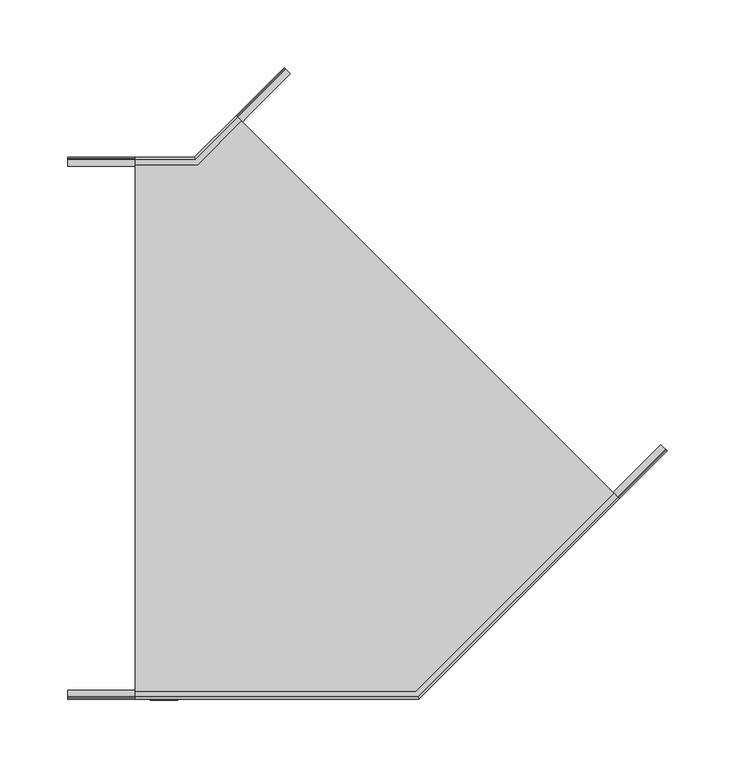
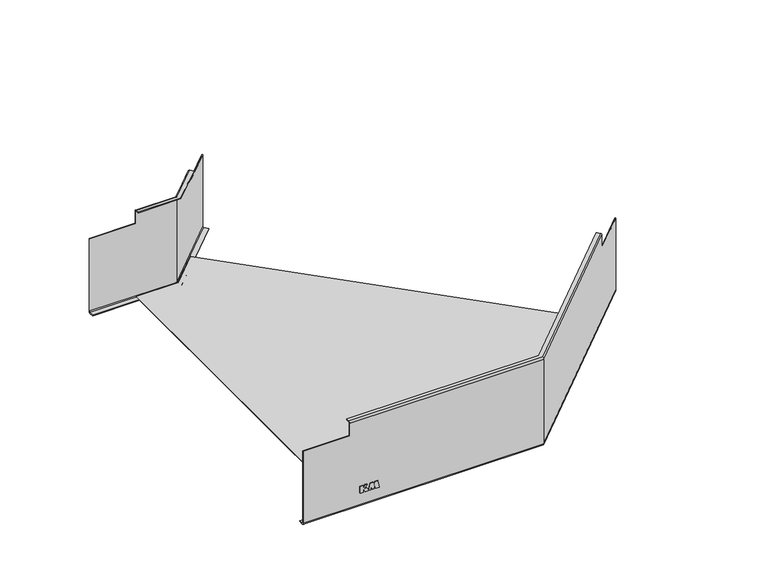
"""IFC4 building model written with IfcOpenShell, lengths in millimetres: cable carrier fitting geometry, КМ Профиль Угол горизонтальный : Угол горизонтальный."""

import ifcopenshell
import ifcopenshell.guid

model = None  # the IFC model being written
_history = None  # IfcOwnerHistory: only IFC2X3 demands one
_inside = {}  # id of a spatial element -> (the spatial element, [elements in it])
_under = {}  # id of a project, library or spatial element -> (it, [spatial elements below it])
_declared = {}  # id of a project -> (the project, [libraries it declares])
_typed = {}  # id of a type object -> (the type object, [elements of that type])
_made_of = {}  # id of a material, layer set ... -> (it, [elements and type objects made of it])


def new_model(schema):
    """Start an empty IFC model of exactly this schema.

    Asked for "IFC4X3", IfcOpenShell would pick the latest addendum, in which some entities
    have other attributes; the version numbers below select the first issue.
    IFC2X3 requires an IfcOwnerHistory on every rooted entity: one is made here for all.
    """
    global model, _history
    if schema == "IFC4X3":
        model = ifcopenshell.file(schema_version=(4, 3, 0, 0))
    else:
        model = ifcopenshell.file(schema=schema)
    _inside.clear()
    _under.clear()
    _declared.clear()
    _typed.clear()
    _made_of.clear()
    _history = None
    if model.schema == "IFC2X3":
        org = make("IfcOrganization", Name="unknown")
        user = make(
            "IfcPersonAndOrganization",
            ThePerson=make("IfcPerson", FamilyName="unknown"),
            TheOrganization=org,
        )
        app = make(
            "IfcApplication",
            ApplicationDeveloper=org,
            Version="unknown",
            ApplicationFullName="unknown",
            ApplicationIdentifier="unknown",
        )
        _history = make(
            "IfcOwnerHistory",
            OwningUser=user,
            OwningApplication=app,
            ChangeAction="ADDED",
            CreationDate=0,
        )
    return model


def make(cls, **values):
    """One entity of the class cls with the attributes given. An attribute that is None is left unset."""
    return model.create_entity(
        cls, **{name: value for name, value in values.items() if value is not None}
    )


def rooted(cls, **values):
    """An entity with a GlobalId (a new one), such as an element, a storey or a relation."""
    return make(cls, GlobalId=ifcopenshell.guid.new(), OwnerHistory=_history, **values)


def si_unit(unit_type, name, prefix=None):
    """IfcSIUnit, for example si_unit("LENGTHUNIT", "METRE", prefix="MILLI")."""
    return make("IfcSIUnit", UnitType=unit_type, Prefix=prefix, Name=name)


def assignment(units):
    """IfcUnitAssignment: the units of a project."""
    return None if units is None else make("IfcUnitAssignment", Units=units)


def point(xyz):
    """IfcCartesianPoint."""
    return None if xyz is None else make("IfcCartesianPoint", Coordinates=xyz)


def direction(xyz):
    """IfcDirection."""
    return None if xyz is None else make("IfcDirection", DirectionRatios=xyz)


def frame(location, z_axis=None, x_axis=None):
    """IfcAxis2Placement3D, a coordinate frame: its origin and axes. An axis left out is left unset."""
    return make(
        "IfcAxis2Placement3D",
        Location=point(location),
        Axis=direction(z_axis),
        RefDirection=direction(x_axis),
    )


def origin():
    """The frame at (0, 0, 0) with its axes left unset."""
    return frame((0.0, 0.0, 0.0))


def place(relative_to, where):
    """IfcLocalPlacement: puts the frame where relative to a parent placement (None: the world)."""
    return make(
        "IfcLocalPlacement", PlacementRelTo=relative_to, RelativePlacement=where
    )


def context(
    kind, dimensions, precision=None, world=None, true_north=None, identifier=None
):
    """IfcGeometricRepresentationContext, for example the 3D "Model" context."""
    return make(
        "IfcGeometricRepresentationContext",
        ContextIdentifier=identifier,
        ContextType=kind,
        CoordinateSpaceDimension=dimensions,
        Precision=precision,
        WorldCoordinateSystem=world,
        TrueNorth=true_north,
    )


def project(units=None, contexts=None):
    """IfcProject with its units and contexts."""
    return rooted(
        "IfcProject",
        Name="project",
        RepresentationContexts=contexts,
        UnitsInContext=assignment(units),
    )


def spatial(cls, under=None, at=None, **own):
    """A site, building, storey or space (cls), placed at a placement, below another one or the project."""
    s = rooted(cls, ObjectPlacement=at, **own)
    if under is not None:
        _under.setdefault(under.id(), (under, []))[1].append(s)
    return s


def polyline(points):
    """IfcPolyline through the points."""
    return make("IfcPolyline", Points=[point(p) for p in points])


def circle_curve(where, radius):
    """IfcCircle in the frame where."""
    return make("IfcCircle", Position=where, Radius=radius)


def ellipse_curve(where, semi_axis1, semi_axis2):
    """IfcEllipse in the frame where."""
    return make(
        "IfcEllipse", Position=where, SemiAxis1=semi_axis1, SemiAxis2=semi_axis2
    )


def outline(outer, holes=None, kind="AREA"):
    """IfcArbitraryClosedProfileDef: a profile drawn as a closed curve; with holes, ...WithVoids."""
    if holes is None:
        return make("IfcArbitraryClosedProfileDef", ProfileType=kind, OuterCurve=outer)
    return make(
        "IfcArbitraryProfileDefWithVoids",
        ProfileType=kind,
        OuterCurve=outer,
        InnerCurves=holes,
    )


def extrude(swept, where, along, depth):
    """IfcExtrudedAreaSolid: the profile swept, set in the frame where, extruded along a direction by depth."""
    return make(
        "IfcExtrudedAreaSolid",
        SweptArea=swept,
        Position=where,
        ExtrudedDirection=direction(along),
        Depth=depth,
    )


def shape(context_of_items, identifier, shape_type, items):
    """IfcShapeRepresentation: the items that make up one representation, for example the "Body"."""
    return make(
        "IfcShapeRepresentation",
        ContextOfItems=context_of_items,
        RepresentationIdentifier=identifier,
        RepresentationType=shape_type,
        Items=items,
    )


def source(mapping_origin, context_of_items, identifier, shape_type, items):
    """IfcRepresentationMap: a shape defined once, which mapped items show again and again."""
    return make(
        "IfcRepresentationMap",
        MappingOrigin=mapping_origin,
        MappedRepresentation=shape(context_of_items, identifier, shape_type, items),
    )


def transform(
    local_origin,
    x_axis=None,
    y_axis=None,
    z_axis=None,
    scale=None,
    scale2=None,
    scale3=None,
    uniform=True,
):
    """IfcCartesianTransformationOperator3D, or its non-uniform kind. x_axis, y_axis, z_axis: its Axis1, 2, 3."""
    if uniform:
        return make(
            "IfcCartesianTransformationOperator3D",
            Axis1=direction(x_axis),
            Axis2=direction(y_axis),
            LocalOrigin=point(local_origin),
            Scale=scale,
            Axis3=direction(z_axis),
        )
    return make(
        "IfcCartesianTransformationOperator3DnonUniform",
        Axis1=direction(x_axis),
        Axis2=direction(y_axis),
        LocalOrigin=point(local_origin),
        Scale=scale,
        Axis3=direction(z_axis),
        Scale2=scale2,
        Scale3=scale3,
    )


def mapped(mapping_source, mapping_target):
    """IfcMappedItem: shows the shape of a source again, moved by a transform."""
    return make(
        "IfcMappedItem", MappingSource=mapping_source, MappingTarget=mapping_target
    )


def made_of(thing, what):
    """Note that an element or type object is made of a material, layer set ...; save() writes the relation."""
    if what is not None:
        _made_of.setdefault(what.id(), (what, []))[1].append(thing)
    return thing


def element(
    cls,
    number,
    at=None,
    inside=None,
    cuts=None,
    type_object=None,
    material=None,
    context=None,
    identifier="Body",
    shape_type=None,
    held_by="IfcProductDefinitionShape",
    body=None,
    shapes=None,
    **own,
):
    """One element of the class cls, such as IfcWall. Its Tag is "e" and its number.

    at: its placement. inside: the storey or other place that contains it. cuts: it is an
    opening in that element (IfcRelVoidsElement). A single representation is given by context,
    identifier, shape_type and body (its items); several are given by shapes. held_by: the class
    of the entity that holds the representations. save() writes the other relations.
    """
    e = rooted(cls, Tag="e%d" % number, ObjectPlacement=at, **own)
    if body is not None:
        shapes = [shape(context, identifier, shape_type, body)]
    if shapes is not None:
        e.Representation = make(held_by, Representations=shapes)
    if inside is not None:
        _inside.setdefault(inside.id(), (inside, []))[1].append(e)
    if cuts is not None:
        rooted(
            "IfcRelVoidsElement", RelatingBuildingElement=cuts, RelatedOpeningElement=e
        )
    if type_object is not None:
        _typed.setdefault(type_object.id(), (type_object, []))[1].append(e)
    return made_of(e, material)


def aggregate(whole, parts):
    """IfcRelAggregates: a whole, such as a stair, and the parts it consists of."""
    return rooted("IfcRelAggregates", RelatingObject=whole, RelatedObjects=parts)


def save(model, path):
    """Write the relations noted so far, then the file.

    IfcRelAggregates (storeys below a building ...), IfcRelContainedInSpatialStructure (elements
    in a storey), IfcRelDefinesByType, IfcRelAssociatesMaterial and IfcRelDeclares: one each for
    every whole, place, type object, material and project.
    """
    for whole, parts in _under.values():
        aggregate(whole, parts)
    for where, things in _inside.values():
        rooted(
            "IfcRelContainedInSpatialStructure",
            RelatedElements=things,
            RelatingStructure=where,
        )
    for kind, things in _typed.values():
        rooted("IfcRelDefinesByType", RelatedObjects=things, RelatingType=kind)
    for what, things in _made_of.values():
        rooted("IfcRelAssociatesMaterial", RelatedObjects=things, RelatingMaterial=what)
    for by, libraries in _declared.values():
        rooted("IfcRelDeclares", RelatingContext=by, RelatedDefinitions=libraries)
    model.write(path)


def plane_surface(at):
    """IfcPlane: the flat surface through the origin of the frame at, square to its z axis."""
    return make("IfcPlane", Position=at)


def cylinder_surface(at, radius):
    """IfcCylindricalSurface: all points at the distance radius from the z axis of the frame at."""
    return make("IfcCylindricalSurface", Position=at, Radius=radius)


def revolved_surface(curve, axis_point, axis_direction):
    """IfcSurfaceOfRevolution: the curve turned about the line through axis_point along axis_direction."""
    return make(
        "IfcSurfaceOfRevolution",
        SweptCurve=make("IfcArbitraryOpenProfileDef", ProfileType="CURVE", Curve=curve),
        AxisPosition=make("IfcAxis1Placement", Location=point(axis_point), Axis=direction(axis_direction)),
    )


def advanced_brep(points, edges, surfaces, faces):
    """IfcAdvancedBrep: a solid bounded by faces that lie on surfaces and meet in shared edges.

    An edge is (start, end): straight between two places in points (the first is 0);
    or (start, end, curve); or (start, end, curve, False) where it runs against its curve.
    A face is (place in surfaces, loops), or (place, loops, False) where it looks against
    its surface's normal. A loop lists edges by number (the first is 1), with a minus sign
    where the edge is run from its end to its start. The first loop is the outer one.
    """
    corners = [point(p) for p in points]
    vertices = [make("IfcVertexPoint", VertexGeometry=c) for c in corners]
    made = []
    for start, end, *more in edges:
        made.append(
            make(
                "IfcEdgeCurve",
                EdgeStart=vertices[start],
                EdgeEnd=vertices[end],
                EdgeGeometry=more[0] if more else make("IfcPolyline", Points=[corners[start], corners[end]]),
                SameSense=more[1] if len(more) > 1 else True,
            )
        )
    hull = []
    for where, loops, *sense in faces:
        bounds = []
        for j, loop in enumerate(loops):
            ring = [make("IfcOrientedEdge", EdgeElement=made[abs(k) - 1], Orientation=k > 0) for k in loop]
            bounds.append(
                make(
                    "IfcFaceOuterBound" if j == 0 else "IfcFaceBound",
                    Bound=make("IfcEdgeLoop", EdgeList=ring),
                    Orientation=True,
                )
            )
        hull.append(make("IfcAdvancedFace", Bounds=bounds, FaceSurface=surfaces[where], SameSense=sense[0] if sense else True))
    return make("IfcAdvancedBrep", Outer=make("IfcClosedShell", CfsFaces=hull))


def cable_carrier_fitting_b00d838e(model_context):
    return source(origin(), model_context, "Body", "SolidModel", [
        extrude(outline(polyline([(-26.986157, -115.6393683), (-34.737421, -115.6393683), (-34.737421, -112.0635414), (-31.5720802, -112.0635414), (-34.737421, -110.3593369), (-34.737421, -106.4609255), (-31.194034, -108.3282346), (-30.5086619, -110.5699857), (-26.986157, -108.1035012), (-26.986157, -110.2294659), (-30.564509, -112.1321094), (-26.986157, -112.1321094), (-26.986157, -115.6393683)])), frame((0.0, -200.8, 0.0), z_axis=(0.0, 1.0, 0.0), x_axis=(0.0, 0.0, 1.0)), (0.0, 0.0, 1.0), 0.8),
        extrude(outline(polyline([(-34.737421, -104.3967661), (-30.0696135, -104.0130914), (-34.7434681, -102.6050726), (-34.7434681, -101.1305619), (-30.0541919, -99.6504934), (-34.7429915, -99.1730007), (-34.7429915, -95.2705601), (-26.9623682, -96.4620576), (-26.9623682, -99.6560124), (-30.0390232, -100.6773199), (-26.9647569, -101.4438206), (-26.9647569, -104.4745491), (-34.737421, -106.2948297), (-34.737421, -104.3967661)])), frame((0.0, -200.8, 0.0), z_axis=(0.0, 1.0, 0.0), x_axis=(0.0, 0.0, 1.0)), (0.0, 0.0, 1.0), 0.8),
        advanced_brep(
        [(-176.4004902, -199.2, -48.2), (-176.4004902, -198.2, -49.2), (-176.4004902, -193.5, -49.2), (-176.4004902, -193.5, -50.0), (-176.4004902, -198.2, -50.0), (-176.4004902, -200.0, -48.2), (-176.4004902, -200.0, 34.0), (-176.4004902, -199.2, 34.0), (82.5113416, -199.2, 48.2), (82.5113416, -199.2, -48.2), (-126.4004902, -199.2, 34.0), (-126.4004902, -199.2, 48.2), (82.0971281, -198.2, -49.2), (264.8825469, -15.4145812, -49.2), (261.559145, -12.0911793, -49.2), (80.1503243, -193.5, -49.2), (80.1503243, -193.5, -50.0), (261.559145, -12.0911793, -50.0), (264.8825469, -15.4145812, -50.0), (82.0971281, -198.2, -50.0), (82.8427125, -200.0, -48.2), (82.8427125, -200.0, 48.2), (-126.4004902, -200.0, 48.2), (-126.4004902, -200.0, 34.0), (82.0971281, -198.2, 50.0), (-126.4004902, -198.2, 50.0), (229.5272078, -50.7699203, 50.0), (226.9109127, -48.1536252, 50.0), (80.5645379, -194.5, 50.0), (-126.4004902, -194.5, 50.0), (80.5645379, -194.5, 49.2), (-126.4004902, -194.5, 49.2), (226.9109127, -48.1536252, 49.2), (229.5272078, -50.7699203, 49.2), (82.0971281, -198.2, 49.2), (-126.4004902, -198.2, 49.2), (265.5896536, -16.121688, -48.2), (265.5896536, -16.121688, 34.0), (266.1553391, -16.6873734, 34.0), (266.1553391, -16.6873734, -48.2), (230.2343146, -51.477027, 48.2), (230.2343146, -51.477027, 34.0), (230.8, -52.0427125, 34.0), (230.8, -52.0427125, 48.2)],
        [
            (0, 1, circle_curve(frame((-176.4004902, -198.2, -48.2), z_axis=(1.0, 0.0, 0.0), x_axis=(0.0, 1.0, 0.0)), 1.0)),
            (1, 2),
            (2, 3),
            (3, 4),
            (4, 5, circle_curve(frame((-176.4004902, -198.2, -48.2), z_axis=(-1.0, 0.0, 0.0), x_axis=(0.0, 1.0, 0.0)), 1.8)),
            (5, 6),
            (6, 7),
            (7, 0),
            (8, 9),
            (9, 0),
            (7, 10),
            (10, 11),
            (11, 8),
            (9, 12, ellipse_curve(frame((82.0971281, -198.2, -48.2), z_axis=(0.9238795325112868, 0.3826834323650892, 0.0), x_axis=(0.3826834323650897, -0.9238795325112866, 0.0)), 1.0823922, 1.0)),
            (12, 1),
            (12, 13),
            (13, 14),
            (14, 15),
            (15, 2),
            (15, 16),
            (16, 3),
            (16, 17),
            (17, 18),
            (18, 19),
            (19, 4),
            (19, 20, ellipse_curve(frame((82.0971281, -198.2, -48.2), z_axis=(-0.9238795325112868, -0.3826834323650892, 0.0), x_axis=(-0.3826834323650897, 0.9238795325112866, 0.0)), 1.948306, 1.8)),
            (20, 5),
            (20, 21),
            (21, 22),
            (22, 23),
            (23, 6),
            (21, 24, ellipse_curve(frame((82.0971281, -198.2, 48.2), z_axis=(-0.9238795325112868, -0.3826834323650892, 0.0), x_axis=(-0.3826834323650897, 0.9238795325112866, 0.0)), 1.948306, 1.8)),
            (24, 25),
            (25, 22, circle_curve(frame((-126.4004902, -198.2, 48.2), z_axis=(1.0, 0.0, 0.0), x_axis=(0.0, 1.0, 0.0)), 1.8)),
            (24, 26),
            (26, 27),
            (27, 28),
            (28, 29),
            (29, 25),
            (28, 30),
            (30, 31),
            (31, 29),
            (30, 32),
            (32, 33),
            (33, 34),
            (34, 35),
            (35, 31),
            (34, 8, ellipse_curve(frame((82.0971281, -198.2, 48.2), z_axis=(0.9238795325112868, 0.3826834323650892, 0.0), x_axis=(0.3826834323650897, -0.9238795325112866, 0.0)), 1.0823922, 1.0)),
            (11, 35, circle_curve(frame((-126.4004902, -198.2, 48.2), z_axis=(-1.0, 0.0, 0.0), x_axis=(0.0, 1.0, 0.0)), 1.0)),
            (13, 36, circle_curve(frame((264.8825469, -15.4145812, -48.2), z_axis=(-0.7071067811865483, -0.7071067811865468, 0.0), x_axis=(-0.7071067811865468, 0.7071067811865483, 0.0)), 1.0)),
            (36, 37),
            (37, 38),
            (38, 39),
            (39, 18, circle_curve(frame((264.8825469, -15.4145812, -48.2), z_axis=(0.7071067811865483, 0.7071067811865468, 0.0), x_axis=(-0.7071067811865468, 0.7071067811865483, 0.0)), 1.8)),
            (17, 14),
            (8, 40),
            (40, 41),
            (41, 37),
            (36, 9),
            (39, 20),
            (38, 42),
            (42, 43),
            (43, 21),
            (43, 26, circle_curve(frame((229.5272078, -50.7699203, 48.2), z_axis=(-0.7071067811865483, -0.7071067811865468, 0.0), x_axis=(-0.7071067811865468, 0.7071067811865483, 0.0)), 1.8)),
            (27, 32),
            (33, 40, circle_curve(frame((229.5272078, -50.7699203, 48.2), z_axis=(0.7071067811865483, 0.7071067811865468, 0.0), x_axis=(-0.7071067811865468, 0.7071067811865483, 0.0)), 1.0)),
            (23, 10),
            (41, 42),
        ],
        [
            plane_surface(frame((-176.4004902, -200.0, 0.0), z_axis=(-1.0, 0.0, 0.0), x_axis=(0.0, 0.0, 1.0))),
            plane_surface(frame((-176.4004902, -199.2, 48.2), z_axis=(0.0, 1.0, 0.0), x_axis=(1.0, 0.0, 0.0))),
            revolved_surface(polyline([(82.51134166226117, -197.2, -48.2), (-176.4004902, -197.2, -48.2)]), (-176.4004902, -198.2, -48.2), (1.0, 0.0, 0.0)),
            plane_surface(frame((-176.4004902, -198.2, -49.2), z_axis=(0.0, 0.0, 1.0), x_axis=(1.0, 0.0, 0.0))),
            plane_surface(frame((-176.4004902, -193.5, -49.2), z_axis=(0.0, 1.0, 0.0), x_axis=(1.0, 0.0, 0.0))),
            plane_surface(frame((-176.4004902, -193.5, -50.0), z_axis=(0.0, 0.0, -1.0), x_axis=(1.0, 0.0, 0.0))),
            cylinder_surface(frame((-176.4004902, -198.2, -48.2), z_axis=(-1.0, 0.0, 0.0), x_axis=(0.0, 1.0, 0.0)), 1.8),
            plane_surface(frame((-176.4004902, -200.0, -48.2), z_axis=(0.0, -1.0, 0.0), x_axis=(1.0, 0.0, 0.0))),
            cylinder_surface(frame((-176.4004902, -198.2, 48.2), z_axis=(-1.0, 0.0, 0.0), x_axis=(0.0, 1.0, 0.0)), 1.8),
            plane_surface(frame((-176.4004902, -198.2, 50.0), z_axis=(0.0, 0.0, 1.0), x_axis=(1.0, 0.0, 0.0))),
            plane_surface(frame((-176.4004902, -194.5, 50.0), z_axis=(0.0, 1.0, 0.0), x_axis=(1.0, 0.0, 0.0))),
            plane_surface(frame((-176.4004902, -194.5, 49.2), z_axis=(0.0, 0.0, -1.0), x_axis=(1.0, 0.0, 0.0))),
            revolved_surface(polyline([(82.51134166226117, -197.2, 48.2), (-126.4004902, -197.2, 48.2)]), (-176.4004902, -198.2, 48.2), (1.0, 0.0, 0.0)),
            plane_surface(frame((266.1553391, -16.6873734, 0.0), z_axis=(0.7071067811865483, 0.7071067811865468, 0.0), x_axis=(0.0, 0.0, 1.0))),
            plane_surface(frame((82.5113416, -199.2, 48.2), z_axis=(-0.7071067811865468, 0.7071067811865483, 0.0), x_axis=(0.7071067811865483, 0.7071067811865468, 0.0))),
            revolved_surface(polyline([(264.17544011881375, -14.707474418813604, -48.2), (81.09712806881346, -197.78578646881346, -48.2)]), (81.5699203, -198.7272078, -48.2), (0.7071067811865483, 0.7071067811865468, 0.0)),
            plane_surface(frame((80.1503243, -193.5, -49.2), z_axis=(-0.7071067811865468, 0.7071067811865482, 0.0), x_axis=(0.7071067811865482, 0.7071067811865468, 0.0))),
            cylinder_surface(frame((81.5699203, -198.7272078, -48.2), z_axis=(-0.7071067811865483, -0.7071067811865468, 0.0), x_axis=(-0.7071067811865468, 0.7071067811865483, 0.0)), 1.8),
            plane_surface(frame((82.8427125, -200.0, -48.2), z_axis=(0.7071067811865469, -0.7071067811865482, 0.0), x_axis=(0.7071067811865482, 0.7071067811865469, 0.0))),
            cylinder_surface(frame((81.5699203, -198.7272078, 48.2), z_axis=(-0.7071067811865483, -0.7071067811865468, 0.0), x_axis=(-0.7071067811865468, 0.7071067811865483, 0.0)), 1.8),
            plane_surface(frame((80.5645379, -194.5, 50.0), z_axis=(-0.7071067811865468, 0.7071067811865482, 0.0), x_axis=(0.7071067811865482, 0.7071067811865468, 0.0))),
            revolved_surface(polyline([(228.82010106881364, -50.0628134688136, 48.2), (81.09712806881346, -197.78578646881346, 48.2)]), (81.5699203, -198.7272078, 48.2), (0.7071067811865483, 0.7071067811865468, 0.0)),
            plane_surface(frame((-176.4004902, -200.0, 34.0), z_axis=(0.0, 0.0, 1.0), x_axis=(-1.0, 0.0, 0.0))),
            plane_surface(frame((-126.4004902, -200.0, 50.0), z_axis=(-1.0, 0.0, 0.0), x_axis=(0.0, 0.0, -1.0))),
            plane_surface(frame((-52.0427125, 230.8, 50.0), z_axis=(0.7071067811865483, 0.7071067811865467, 0.0), x_axis=(0.0, 0.0, -1.0))),
        ],
        [
            (0, [[1, 2, 3, 4, 5, 6, 7, 8]]),
            (1, [[9, 10, -8, 11, 12, 13]]),
            (2, [[-1, -10, 14, 15]]),
            (3, [[-2, -15, 16, 17, 18, 19]]),
            (4, [[-3, -19, 20, 21]]),
            (5, [[-4, -21, 22, 23, 24, 25]]),
            (6, [[-5, -25, 26, 27]]),
            (7, [[-27, 28, 29, 30, 31, -6]]),
            (8, [[32, 33, 34, -29]]),
            (9, [[-33, 35, 36, 37, 38, 39]]),
            (10, [[40, 41, 42, -38]]),
            (11, [[-41, 43, 44, 45, 46, 47]]),
            (12, [[48, -13, 49, -46]]),
            (13, [[-17, 50, 51, 52, 53, 54, -23, 55]]),
            (14, [[-9, 56, 57, 58, -51, 59]]),
            (15, [[-14, -59, -50, -16]]),
            (16, [[-18, -55, -22, -20]]),
            (17, [[-24, -54, 60, -26]]),
            (18, [[-28, -60, -53, 61, 62, 63]]),
            (19, [[-32, -63, 64, -35]]),
            (20, [[-40, -37, 65, -43]]),
            (21, [[-48, -45, 66, -56]]),
            (22, [[67, -11, -7, -31]]),
            (22, [[68, -61, -52, -58]]),
            (23, [[-67, -30, -34, -39, -42, -47, -49, -12]]),
            (24, [[-68, -57, -66, -44, -65, -36, -64, -62]]),
        ],
    ),
        advanced_brep(
        [(-176.4004902, 193.5, -49.2), (-176.4004902, 198.2, -49.2), (-176.4004902, 199.2, -48.2), (-176.4004902, 199.2, 34.0), (-176.4004902, 200.0, 34.0), (-176.4004902, 200.0, -48.2), (-176.4004902, 198.2, -50.0), (-176.4004902, 193.5, -50.0), (-80.1503243, 193.5, -49.2), (-12.0911793, 261.559145, -49.2), (-15.4145812, 264.8825469, -49.2), (-82.0971281, 198.2, -49.2), (-82.5113416, 199.2, -48.2), (-82.5113416, 199.2, 48.2), (-126.4004902, 199.2, 48.2), (-126.4004902, 199.2, 34.0), (-82.0971281, 198.2, 49.2), (-126.4004902, 198.2, 49.2), (-50.7699203, 229.5272078, 49.2), (-48.1536252, 226.9109127, 49.2), (-80.5645379, 194.5, 49.2), (-126.4004902, 194.5, 49.2), (-80.5645379, 194.5, 50.0), (-126.4004902, 194.5, 50.0), (-48.1536252, 226.9109127, 50.0), (-50.7699203, 229.5272078, 50.0), (-82.0971281, 198.2, 50.0), (-126.4004902, 198.2, 50.0), (-82.8427125, 200.0, 48.2), (-126.4004902, 200.0, 48.2), (-82.8427125, 200.0, -48.2), (-126.4004902, 200.0, 34.0), (-82.0971281, 198.2, -50.0), (-15.4145812, 264.8825469, -50.0), (-12.0911793, 261.559145, -50.0), (-80.1503243, 193.5, -50.0), (-16.6873734, 266.1553391, -48.2), (-16.6873734, 266.1553391, 34.0), (-16.121688, 265.5896536, 34.0), (-16.121688, 265.5896536, -48.2), (-51.477027, 230.2343146, 34.0), (-51.477027, 230.2343146, 48.2), (-52.0427125, 230.8, 48.2), (-52.0427125, 230.8, 34.0)],
        [
            (0, 1),
            (1, 2, circle_curve(frame((-176.4004902, 198.2, -48.2), z_axis=(1.0, 0.0, 0.0), x_axis=(0.0, 1.0, 0.0)), 1.0)),
            (2, 3),
            (3, 4),
            (4, 5),
            (5, 6, circle_curve(frame((-176.4004902, 198.2, -48.2), z_axis=(-1.0, 0.0, 0.0), x_axis=(0.0, 1.0, 0.0)), 1.8)),
            (6, 7),
            (7, 0),
            (0, 8),
            (8, 9),
            (9, 10),
            (10, 11),
            (11, 1),
            (11, 12, ellipse_curve(frame((-82.0971281, 198.2, -48.2), z_axis=(0.9238795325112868, 0.3826834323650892, 0.0), x_axis=(0.3826834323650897, -0.9238795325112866, 0.0)), 1.0823922, 1.0)),
            (12, 2),
            (12, 13),
            (13, 14),
            (14, 15),
            (15, 3),
            (13, 16, ellipse_curve(frame((-82.0971281, 198.2, 48.2), z_axis=(0.9238795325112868, 0.3826834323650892, 0.0), x_axis=(0.3826834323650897, -0.9238795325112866, 0.0)), 1.0823922, 1.0)),
            (16, 17),
            (17, 14, circle_curve(frame((-126.4004902, 198.2, 48.2), z_axis=(-1.0, 0.0, 0.0), x_axis=(0.0, 1.0, 0.0)), 1.0)),
            (16, 18),
            (18, 19),
            (19, 20),
            (20, 21),
            (21, 17),
            (20, 22),
            (22, 23),
            (23, 21),
            (22, 24),
            (24, 25),
            (25, 26),
            (26, 27),
            (27, 23),
            (26, 28, ellipse_curve(frame((-82.0971281, 198.2, 48.2), z_axis=(-0.9238795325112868, -0.3826834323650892, 0.0), x_axis=(-0.3826834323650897, 0.9238795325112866, 0.0)), 1.948306, 1.8)),
            (28, 29),
            (29, 27, circle_curve(frame((-126.4004902, 198.2, 48.2), z_axis=(1.0, 0.0, 0.0), x_axis=(0.0, 1.0, 0.0)), 1.8)),
            (28, 30),
            (30, 5),
            (4, 31),
            (31, 29),
            (30, 32, ellipse_curve(frame((-82.0971281, 198.2, -48.2), z_axis=(-0.9238795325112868, -0.3826834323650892, 0.0), x_axis=(-0.3826834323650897, 0.9238795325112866, 0.0)), 1.948306, 1.8)),
            (32, 6),
            (32, 33),
            (33, 34),
            (34, 35),
            (35, 7),
            (35, 8),
            (9, 34),
            (33, 36, circle_curve(frame((-15.4145812, 264.8825469, -48.2), z_axis=(0.7071067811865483, 0.7071067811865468, 0.0), x_axis=(-0.7071067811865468, 0.7071067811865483, 0.0)), 1.8)),
            (36, 37),
            (37, 38),
            (38, 39),
            (39, 10, circle_curve(frame((-15.4145812, 264.8825469, -48.2), z_axis=(-0.7071067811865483, -0.7071067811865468, 0.0), x_axis=(-0.7071067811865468, 0.7071067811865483, 0.0)), 1.0)),
            (39, 12),
            (38, 40),
            (40, 41),
            (41, 13),
            (41, 18, circle_curve(frame((-50.7699203, 229.5272078, 48.2), z_axis=(0.7071067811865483, 0.7071067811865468, 0.0), x_axis=(-0.7071067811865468, 0.7071067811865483, 0.0)), 1.0)),
            (19, 24),
            (25, 42, circle_curve(frame((-50.7699203, 229.5272078, 48.2), z_axis=(-0.7071067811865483, -0.7071067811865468, 0.0), x_axis=(-0.7071067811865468, 0.7071067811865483, 0.0)), 1.8)),
            (42, 28),
            (42, 43),
            (43, 37),
            (36, 30),
            (15, 31),
            (43, 40),
        ],
        [
            plane_surface(frame((-176.4004902, 200.0, 0.0), z_axis=(-1.0, 0.0, 0.0), x_axis=(0.0, 0.0, 1.0))),
            plane_surface(frame((-176.4004902, 193.5, -49.2), z_axis=(0.0, 0.0, 1.0), x_axis=(1.0, 0.0, 0.0))),
            revolved_surface(polyline([(-81.68291453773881, 199.2, -48.2), (-176.4004902, 199.2, -48.2)]), (-176.4004902, 198.2, -48.2), (1.0, 0.0, 0.0)),
            plane_surface(frame((-176.4004902, 199.2, -48.2), z_axis=(0.0, -1.0, 0.0), x_axis=(1.0, 0.0, 0.0))),
            revolved_surface(polyline([(-81.68291453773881, 199.2, 48.2), (-126.4004902, 199.2, 48.2)]), (-176.4004902, 198.2, 48.2), (1.0, 0.0, 0.0)),
            plane_surface(frame((-176.4004902, 198.2, 49.2), z_axis=(0.0, 0.0, -1.0), x_axis=(1.0, 0.0, 0.0))),
            plane_surface(frame((-176.4004902, 194.5, 49.2), z_axis=(0.0, -1.0, 0.0), x_axis=(1.0, 0.0, 0.0))),
            plane_surface(frame((-176.4004902, 194.5, 50.0), z_axis=(0.0, 0.0, 1.0), x_axis=(1.0, 0.0, 0.0))),
            cylinder_surface(frame((-176.4004902, 198.2, 48.2), z_axis=(-1.0, 0.0, 0.0), x_axis=(0.0, 1.0, 0.0)), 1.8),
            plane_surface(frame((-176.4004902, 200.0, 48.2), z_axis=(0.0, 1.0, 0.0), x_axis=(1.0, 0.0, 0.0))),
            cylinder_surface(frame((-176.4004902, 198.2, -48.2), z_axis=(-1.0, 0.0, 0.0), x_axis=(0.0, 1.0, 0.0)), 1.8),
            plane_surface(frame((-176.4004902, 198.2, -50.0), z_axis=(0.0, 0.0, -1.0), x_axis=(1.0, 0.0, 0.0))),
            plane_surface(frame((-176.4004902, 193.5, -50.0), z_axis=(0.0, -1.0, 0.0), x_axis=(1.0, 0.0, 0.0))),
            plane_surface(frame((-16.6873734, 266.1553391, 0.0), z_axis=(0.7071067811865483, 0.7071067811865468, 0.0), x_axis=(0.0, 0.0, 1.0))),
            revolved_surface(polyline([(-16.12168798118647, 265.5896536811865, -48.2), (-83.0971280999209, 198.61421356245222, -48.2)]), (-81.5699203, 198.7272078, -48.2), (0.7071067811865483, 0.7071067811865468, 0.0)),
            plane_surface(frame((-82.5113416, 199.2, -48.2), z_axis=(0.7071067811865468, -0.7071067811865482, 0.0), x_axis=(0.7071067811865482, 0.7071067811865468, 0.0))),
            revolved_surface(polyline([(-51.47702703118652, 230.23431463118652, 48.2), (-83.0971280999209, 198.61421356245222, 48.2)]), (-81.5699203, 198.7272078, 48.2), (0.7071067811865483, 0.7071067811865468, 0.0)),
            plane_surface(frame((-80.5645379, 194.5, 49.2), z_axis=(0.707106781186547, -0.7071067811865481, 0.0), x_axis=(0.7071067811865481, 0.707106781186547, 0.0))),
            cylinder_surface(frame((-81.5699203, 198.7272078, 48.2), z_axis=(-0.7071067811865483, -0.7071067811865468, 0.0), x_axis=(-0.7071067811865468, 0.7071067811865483, 0.0)), 1.8),
            plane_surface(frame((-82.8427125, 200.0, 48.2), z_axis=(-0.7071067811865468, 0.7071067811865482, 0.0), x_axis=(0.7071067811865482, 0.7071067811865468, 0.0))),
            cylinder_surface(frame((-81.5699203, 198.7272078, -48.2), z_axis=(-0.7071067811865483, -0.7071067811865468, 0.0), x_axis=(-0.7071067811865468, 0.7071067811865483, 0.0)), 1.8),
            plane_surface(frame((-80.1503243, 193.5, -50.0), z_axis=(0.7071067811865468, -0.7071067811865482, 0.0), x_axis=(0.7071067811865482, 0.7071067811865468, 0.0))),
            plane_surface(frame((-176.4004902, -200.0, 34.0), z_axis=(0.0, 0.0, 1.0), x_axis=(-1.0, 0.0, 0.0))),
            plane_surface(frame((-126.4004902, -200.0, 50.0), z_axis=(-1.0, 0.0, 0.0), x_axis=(0.0, 0.0, -1.0))),
            plane_surface(frame((-52.0427125, 230.8, 50.0), z_axis=(0.7071067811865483, 0.7071067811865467, 0.0), x_axis=(0.0, 0.0, -1.0))),
        ],
        [
            (0, [[1, 2, 3, 4, 5, 6, 7, 8]]),
            (1, [[-1, 9, 10, 11, 12, 13]]),
            (2, [[-2, -13, 14, 15]]),
            (3, [[-15, 16, 17, 18, 19, -3]]),
            (4, [[20, 21, 22, -17]]),
            (5, [[-21, 23, 24, 25, 26, 27]]),
            (6, [[28, 29, 30, -26]]),
            (7, [[-29, 31, 32, 33, 34, 35]]),
            (8, [[36, 37, 38, -34]]),
            (9, [[39, 40, -5, 41, 42, -37]]),
            (10, [[-6, -40, 43, 44]]),
            (11, [[-7, -44, 45, 46, 47, 48]]),
            (12, [[-8, -48, 49, -9]]),
            (13, [[-11, 50, -46, 51, 52, 53, 54, 55]]),
            (14, [[-12, -55, 56, -14]]),
            (15, [[-16, -56, -54, 57, 58, 59]]),
            (16, [[-20, -59, 60, -23]]),
            (17, [[-28, -25, 61, -31]]),
            (18, [[-36, -33, 62, 63]]),
            (19, [[-39, -63, 64, 65, -52, 66]]),
            (20, [[-43, -66, -51, -45]]),
            (21, [[-10, -49, -47, -50]]),
            (22, [[67, -41, -4, -19]]),
            (22, [[68, -57, -53, -65]]),
            (23, [[-67, -18, -22, -27, -30, -35, -38, -42]]),
            (24, [[-68, -64, -62, -32, -61, -24, -60, -58]]),
        ],
    ),
        extrude(outline(polyline([(-126.4004902, -197.4), (-126.4004902, 198.2), (-80.9657572, 198.2), (-50.2042348, 228.9615224), (228.9615224, -50.2042348), (81.7657572, -197.4), (-126.4004902, -197.4)])), frame((0.0, 0.0, -49.2), z_axis=(0.0, 0.0, 1.0), x_axis=(1.0, 0.0, 0.0)), (0.0, 0.0, 1.0), 0.8),
    ])


if __name__ == "__main__":
    model = new_model("IFC4")
    model_context = context("Model", 3, world=origin())
    ifc_project = project(units=[si_unit("LENGTHUNIT", "METRE", prefix="MILLI")], contexts=[model_context])
    site = spatial("IfcSite", under=ifc_project)
    building = spatial("IfcBuilding", under=site)
    placement = place(None, origin())
    cable_carrier_fitting_shape = cable_carrier_fitting_b00d838e(model_context)
    element("IfcCableCarrierFitting", 1, ObjectType="КМ Профиль Угол горизонтальный : Угол горизонтальный", at=placement, inside=building, context=model_context, shape_type="MappedRepresentation", body=[
        mapped(cable_carrier_fitting_shape, transform((0.0, 0.0, 0.0), x_axis=(1.0, 0.0, 0.0), y_axis=(0.0, 1.0, 0.0), z_axis=(0.0, 0.0, 1.0))),
    ])
    save(model, "model.ifc")
